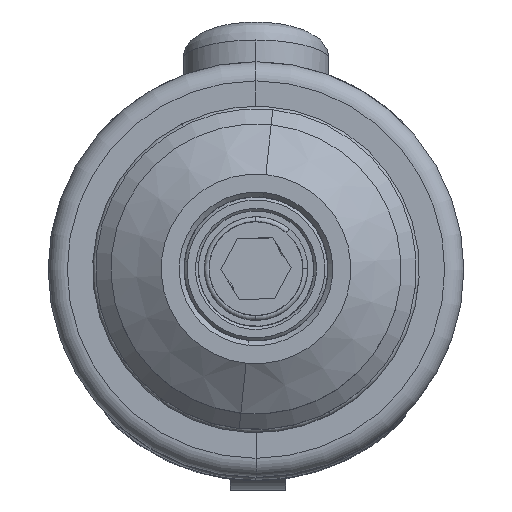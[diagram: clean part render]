
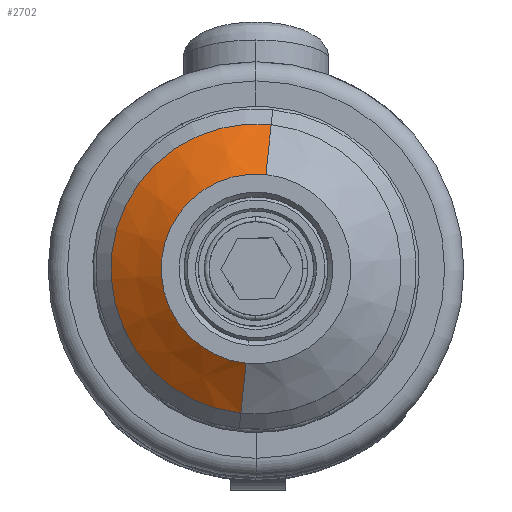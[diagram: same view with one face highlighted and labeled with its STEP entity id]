
A CAD part, top view. The second image highlights one B-rep face of the part: STEP entity #2702.
In plain terms, the highlighted conical face has half-angle 56.184 degrees and reference radius 9.875 mm.
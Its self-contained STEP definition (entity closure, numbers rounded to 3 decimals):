
#750 = DIRECTION ( 'NONE',  ( 0.104, 0.995, 0. ) ) ;
#2702 = ADVANCED_FACE ( 'NONE', ( #76926 ), #111164, .T. ) ;
#9442 = DIRECTION ( 'NONE',  ( -0.087, -0.826, -0.557 ) ) ;
#14713 = AXIS2_PLACEMENT_3D ( 'NONE', #76220, #25930, #750 ) ;
#14771 = CARTESIAN_POINT ( 'NONE',  ( -9.073, 84.028, -116.466 ) ) ;
#22273 = CARTESIAN_POINT ( 'NONE',  ( -10.104, 74.207, -116.466 ) ) ;
#25541 = ORIENTED_EDGE ( 'NONE', *, *, #90184, .F. ) ;
#25930 = DIRECTION ( 'NONE',  ( 0., 0., 1. ) ) ;
#34699 = CARTESIAN_POINT ( 'NONE',  ( -10.104, 74.207, -116.466 ) ) ;
#40618 = DIRECTION ( 'NONE',  ( 0.087, 0.826, -0.557 ) ) ;
#59826 = LINE ( 'NONE', #34699, #182765 ) ;
#65723 = CARTESIAN_POINT ( 'NONE',  ( -8.041, 93.849, -116.466 ) ) ;
#76220 = CARTESIAN_POINT ( 'NONE',  ( -9.073, 84.028, -119.966 ) ) ;
#76926 = FACE_OUTER_BOUND ( 'NONE', #200378, .T. ) ;
#90184 = EDGE_CURVE ( 'NONE', #128895, #150156, #215200, .T. ) ;
#90918 = LINE ( 'NONE', #65723, #116785 ) ;
#94392 = CARTESIAN_POINT ( 'NONE',  ( -10.65, 69.011, -119.966 ) ) ;
#104020 = EDGE_CURVE ( 'NONE', #128895, #234133, #90918, .T. ) ;
#111164 = CONICAL_SURFACE ( 'NONE', #172044, 9.875, 0.981 ) ;
#116785 = VECTOR ( 'NONE', #40618, 1000. ) ;
#120022 = CIRCLE ( 'NONE', #14713, 15.1 ) ;
#120330 = ORIENTED_EDGE ( 'NONE', *, *, #104020, .T. ) ;
#125198 = ORIENTED_EDGE ( 'NONE', *, *, #211405, .F. ) ;
#128895 = VERTEX_POINT ( 'NONE', #241619 ) ;
#150156 = VERTEX_POINT ( 'NONE', #22273 ) ;
#158627 = DIRECTION ( 'NONE',  ( 0.104, 0.995, 0. ) ) ;
#172044 = AXIS2_PLACEMENT_3D ( 'NONE', #14771, #235296, #210207 ) ;
#175327 = AXIS2_PLACEMENT_3D ( 'NONE', #209061, #183796, #158627 ) ;
#182765 = VECTOR ( 'NONE', #9442, 1000. ) ;
#183796 = DIRECTION ( 'NONE',  ( 0., 0., 1. ) ) ;
#186773 = ORIENTED_EDGE ( 'NONE', *, *, #223063, .T. ) ;
#189917 = VERTEX_POINT ( 'NONE', #94392 ) ;
#200378 = EDGE_LOOP ( 'NONE', ( #25541, #120330, #186773, #125198 ) ) ;
#207176 = CARTESIAN_POINT ( 'NONE',  ( -7.495, 99.046, -119.966 ) ) ;
#209061 = CARTESIAN_POINT ( 'NONE',  ( -9.073, 84.028, -116.466 ) ) ;
#210207 = DIRECTION ( 'NONE',  ( -0.104, -0.995, 0. ) ) ;
#211405 = EDGE_CURVE ( 'NONE', #150156, #189917, #59826, .T. ) ;
#215200 = CIRCLE ( 'NONE', #175327, 9.875 ) ;
#223063 = EDGE_CURVE ( 'NONE', #234133, #189917, #120022, .T. ) ;
#234133 = VERTEX_POINT ( 'NONE', #207176 ) ;
#235296 = DIRECTION ( 'NONE',  ( 0., 0., -1. ) ) ;
#241619 = CARTESIAN_POINT ( 'NONE',  ( -8.041, 93.849, -116.466 ) ) ;
